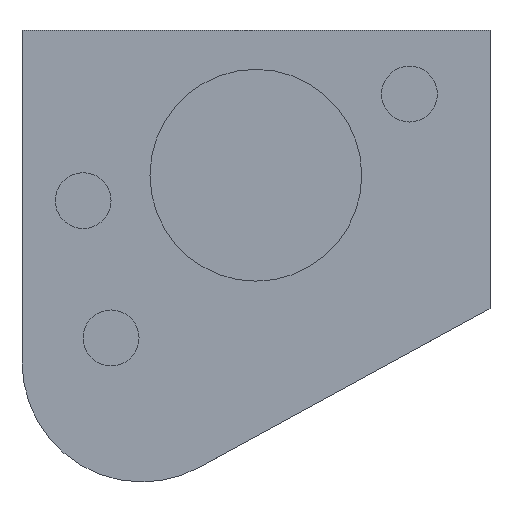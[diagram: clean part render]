
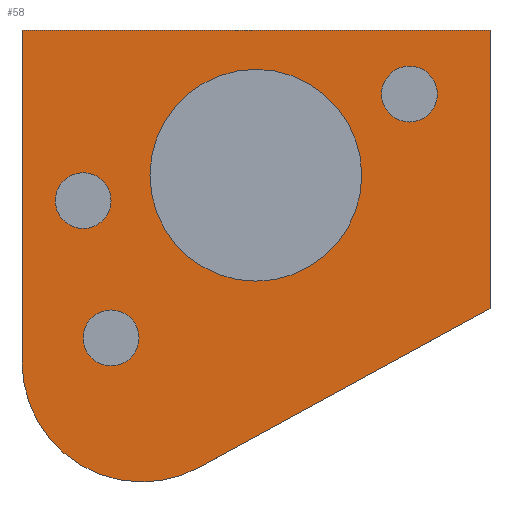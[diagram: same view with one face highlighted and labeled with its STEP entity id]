
A CAD part, top view. The second image highlights one B-rep face of the part: STEP entity #58.
In plain terms, the highlighted planar face has unit normal (0, 0, 1).
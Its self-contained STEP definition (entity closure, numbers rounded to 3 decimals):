
#58=ADVANCED_FACE('',(#193,#195,#197,#199,#201),#203,.T.);
#193=FACE_BOUND('',#194,.T.);
#194=EDGE_LOOP('',(#314,#315,#316,#317,#318));
#195=FACE_BOUND('',#196,.T.);
#196=EDGE_LOOP('',(#319));
#197=FACE_BOUND('',#198,.T.);
#198=EDGE_LOOP('',(#320));
#199=FACE_BOUND('',#200,.T.);
#200=EDGE_LOOP('',(#321));
#201=FACE_BOUND('',#202,.T.);
#202=EDGE_LOOP('',(#322));
#203=PLANE('',#204);
#204=AXIS2_PLACEMENT_3D('',#205,#206,#207);
#205=CARTESIAN_POINT('',(0.,0.,0.8));
#206=DIRECTION('',(0.,0.,1.));
#207=DIRECTION('',(1.,0.,0.));
#314=ORIENTED_EDGE('',*,*,#360,.T.);
#315=ORIENTED_EDGE('',*,*,#361,.T.);
#316=ORIENTED_EDGE('',*,*,#362,.T.);
#317=ORIENTED_EDGE('',*,*,#363,.T.);
#318=ORIENTED_EDGE('',*,*,#364,.T.);
#319=ORIENTED_EDGE('',*,*,#365,.T.);
#320=ORIENTED_EDGE('',*,*,#366,.T.);
#321=ORIENTED_EDGE('',*,*,#367,.T.);
#322=ORIENTED_EDGE('',*,*,#368,.T.);
#360=EDGE_CURVE('',#383,#384,#385,.F.);
#361=EDGE_CURVE('',#384,#386,#387,.F.);
#362=EDGE_CURVE('',#386,#388,#389,.T.);
#363=EDGE_CURVE('',#388,#390,#391,.T.);
#364=EDGE_CURVE('',#390,#383,#392,.T.);
#365=EDGE_CURVE('',#393,#393,#394,.F.);
#366=EDGE_CURVE('',#395,#395,#396,.F.);
#367=EDGE_CURVE('',#397,#397,#398,.F.);
#368=EDGE_CURVE('',#399,#399,#400,.F.);
#383=VERTEX_POINT('',#424);
#384=VERTEX_POINT('',#425);
#385=LINE('',#426,#427);
#386=VERTEX_POINT('',#429);
#387=LINE('',#430,#431);
#388=VERTEX_POINT('',#433);
#389=LINE('',#434,#435);
#390=VERTEX_POINT('',#437);
#391=CIRCLE('',#438,40.);
#392=LINE('',#442,#443);
#393=VERTEX_POINT('',#445);
#394=CIRCLE('',#446,35.3);
#395=VERTEX_POINT('',#450);
#396=CIRCLE('',#451,9.3);
#397=VERTEX_POINT('',#455);
#398=CIRCLE('',#456,9.3);
#399=VERTEX_POINT('',#460);
#400=CIRCLE('',#461,9.3);
#424=CARTESIAN_POINT('',(-139.023,-94.883,0.8));
#425=CARTESIAN_POINT('',(-139.023,-2.,0.8));
#426=CARTESIAN_POINT('',(-139.023,-2.,0.8));
#427=VECTOR('',#428,1.);
#428=DIRECTION('',(0.,-1.,0.));
#429=CARTESIAN_POINT('',(-295.,-2.,0.8));
#430=CARTESIAN_POINT('',(-295.,-2.,0.8));
#431=VECTOR('',#432,1.);
#432=DIRECTION('',(1.,0.,0.));
#433=CARTESIAN_POINT('',(-295.,-112.617,0.8));
#434=CARTESIAN_POINT('',(-295.,-2.,0.8));
#435=VECTOR('',#436,1.);
#436=DIRECTION('',(0.,-1.,0.));
#437=CARTESIAN_POINT('',(-235.836,-147.727,0.8));
#438=AXIS2_PLACEMENT_3D('',#439,#440,#441);
#439=CARTESIAN_POINT('',(-255.,-112.617,0.8));
#440=DIRECTION('',(0.,0.,1.));
#441=DIRECTION('',(-1.,0.,0.));
#442=CARTESIAN_POINT('',(-235.836,-147.727,0.8));
#443=VECTOR('',#444,1.);
#444=DIRECTION('',(0.878,0.479,0.));
#445=CARTESIAN_POINT('',(-181.763,-50.397,0.8));
#446=AXIS2_PLACEMENT_3D('',#447,#448,#449);
#447=CARTESIAN_POINT('',(-217.063,-50.397,0.8));
#448=DIRECTION('',(0.,0.,1.));
#449=DIRECTION('',(1.,0.,0.));
#450=CARTESIAN_POINT('',(-156.566,-23.361,0.8));
#451=AXIS2_PLACEMENT_3D('',#452,#453,#454);
#452=CARTESIAN_POINT('',(-165.866,-23.361,0.8));
#453=DIRECTION('',(0.,0.,1.));
#454=DIRECTION('',(1.,0.,0.));
#455=CARTESIAN_POINT('',(-256.004,-104.594,0.8));
#456=AXIS2_PLACEMENT_3D('',#457,#458,#459);
#457=CARTESIAN_POINT('',(-265.304,-104.594,0.8));
#458=DIRECTION('',(0.,0.,1.));
#459=DIRECTION('',(1.,0.,0.));
#460=CARTESIAN_POINT('',(-265.304,-58.854,0.8));
#461=AXIS2_PLACEMENT_3D('',#462,#463,#464);
#462=CARTESIAN_POINT('',(-274.604,-58.854,0.8));
#463=DIRECTION('',(0.,0.,1.));
#464=DIRECTION('',(1.,0.,0.));
